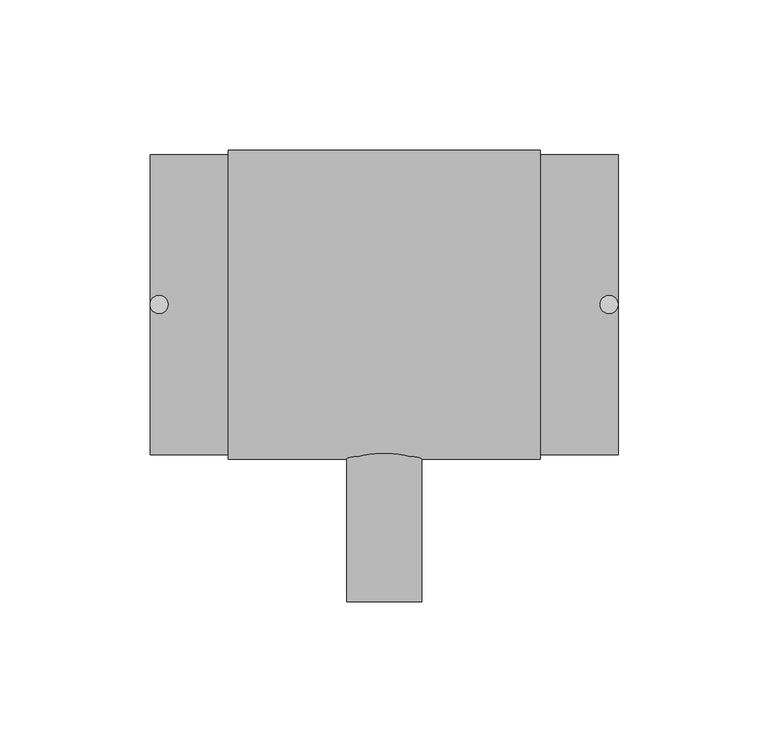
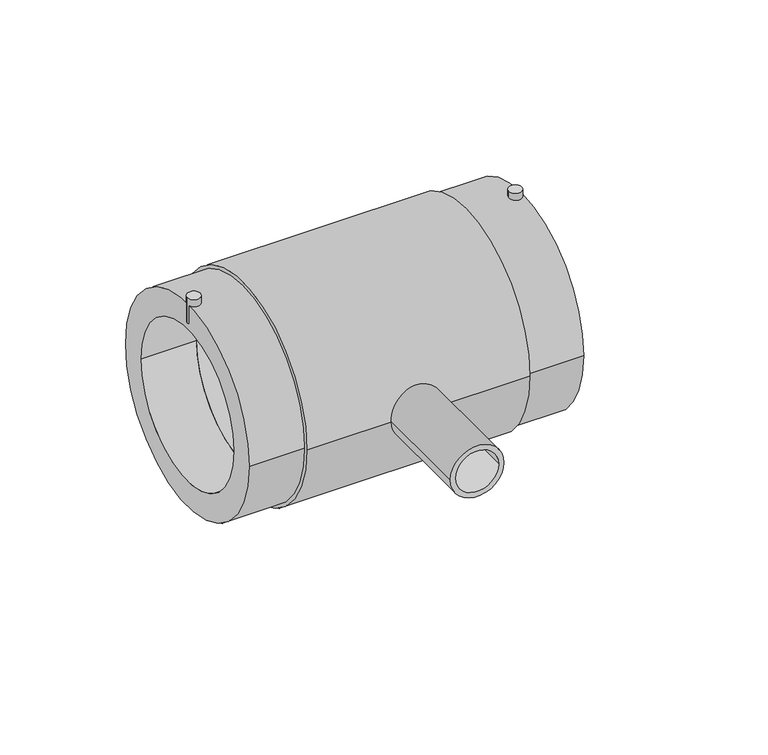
"""IFC4 building model written with IfcOpenShell, lengths in millimetres: pipe fitting geometry, EGB_VASEN_ PPR_Te electrosoldable WXRD300_Te reducida electrosoldable WXRD310 : Te electrosoldable."""

from ifc_helpers import new_model, si_unit, point, frame, frame_2d, origin, origin_2d, place, context, project, spatial, circle_curve, trimmed, segment, composite_curve, outline, extrude, source, transform, mapped, element, save


def pipe_fitting_abe4278b(model_context):
    return source(origin(), model_context, "Body", "SweptSolid", [
        extrude(outline(composite_curve([segment(trimmed(circle_curve(frame_2d((-75.0, 0.0)), 3.0), [point((-78.0, 0.0))], [point((-72.0, 0.0))], False, "CARTESIAN"), True, "CONTINUOUS"), segment(trimmed(circle_curve(frame_2d((-75.0, 0.0)), 3.0), [point((-72.0, 0.0))], [point((-78.0, 0.0))], False, "CARTESIAN"), True, "CONTINUOUS")], self_intersect=False)), frame((0.0, 0.0, 40.5), z_axis=(0.0, 0.0, 1.0), x_axis=(1.0, 0.0, 0.0)), (0.0, 0.0, 1.0), 12.5),
        extrude(outline(composite_curve([segment(trimmed(circle_curve(frame_2d((75.0, 0.0)), 3.0), [point((72.0, 0.0))], [point((78.0, 0.0))], False, "CARTESIAN"), True, "CONTINUOUS"), segment(trimmed(circle_curve(frame_2d((75.0, 0.0)), 3.0), [point((78.0, 0.0))], [point((72.0, 0.0))], False, "CARTESIAN"), True, "CONTINUOUS")], self_intersect=False)), frame((0.0, 0.0, 40.5), z_axis=(0.0, 0.0, 1.0), x_axis=(1.0, 0.0, 0.0)), (0.0, 0.0, 1.0), 12.5),
        extrude(outline(composite_curve([segment(trimmed(circle_curve(origin_2d(), 15.0), [point((0.0, 15.0))], [point((0.0, -15.0))], False, "CARTESIAN"), True, "CONTINUOUS"), segment(trimmed(circle_curve(origin_2d(), 15.0), [point((0.0, -15.0))], [point((0.0, 15.0))], False, "CARTESIAN"), True, "CONTINUOUS")], self_intersect=False)), frame((0.0, -39.6, 0.0), z_axis=(0.0, 1.0, 0.0), x_axis=(0.0, 0.0, 1.0)), (0.0, 0.0, 1.0), 39.6),
        extrude(outline(composite_curve([segment(trimmed(circle_curve(origin_2d(), 12.5), [point((0.0, -12.5))], [point((0.0, 12.5))], False, "CARTESIAN"), True, "CONTINUOUS"), segment(trimmed(circle_curve(origin_2d(), 12.5), [point((0.0, 12.5))], [point((0.0, -12.5))], False, "CARTESIAN"), True, "CONTINUOUS")], self_intersect=False), holes=[composite_curve([segment(trimmed(circle_curve(origin_2d(), 10.0), [point((0.0, -10.0))], [point((0.0, 10.0))], True, "CARTESIAN"), True, "CONTINUOUS"), segment(trimmed(circle_curve(origin_2d(), 10.0), [point((0.0, 10.0))], [point((0.0, -10.0))], True, "CARTESIAN"), True, "CONTINUOUS")], self_intersect=False)]), frame((0.0, -99.0, 0.0), z_axis=(0.0, 1.0, 0.0), x_axis=(0.0, 0.0, 1.0)), (0.0, 0.0, 1.0), 59.4),
        extrude(outline(composite_curve([segment(trimmed(circle_curve(origin_2d(), 51.5), [point((-51.5, 0.0))], [point((51.5, 0.0))], False, "CARTESIAN"), True, "CONTINUOUS"), segment(trimmed(circle_curve(origin_2d(), 51.5), [point((51.5, 0.0))], [point((-51.5, 0.0))], False, "CARTESIAN"), True, "CONTINUOUS")], self_intersect=False), holes=[composite_curve([segment(trimmed(circle_curve(origin_2d(), 37.5), [point((-37.5, 0.0))], [point((37.5, 0.0))], True, "CARTESIAN"), True, "CONTINUOUS"), segment(trimmed(circle_curve(origin_2d(), 37.5), [point((37.5, 0.0))], [point((-37.5, 0.0))], True, "CARTESIAN"), True, "CONTINUOUS")], self_intersect=False)]), frame((-52.0, 0.0, 0.0), z_axis=(1.0, 0.0, 0.0), x_axis=(0.0, 1.0, 0.0)), (0.0, 0.0, 1.0), 104.0),
        extrude(outline(composite_curve([segment(trimmed(circle_curve(origin_2d(), 50.0), [point((-50.0, 0.0))], [point((50.0, 0.0))], False, "CARTESIAN"), True, "CONTINUOUS"), segment(trimmed(circle_curve(origin_2d(), 50.0), [point((50.0, 0.0))], [point((-50.0, 0.0))], False, "CARTESIAN"), True, "CONTINUOUS")], self_intersect=False), holes=[composite_curve([segment(trimmed(circle_curve(origin_2d(), 37.5), [point((-37.5, 0.0))], [point((37.5, 0.0))], True, "CARTESIAN"), True, "CONTINUOUS"), segment(trimmed(circle_curve(origin_2d(), 37.5), [point((37.5, 0.0))], [point((-37.5, 0.0))], True, "CARTESIAN"), True, "CONTINUOUS")], self_intersect=False)]), frame((-78.0, 0.0, 0.0), z_axis=(1.0, 0.0, 0.0), x_axis=(0.0, 1.0, 0.0)), (0.0, 0.0, 1.0), 156.0),
    ])


if __name__ == "__main__":
    model = new_model("IFC4")
    model_context = context("Model", 3, world=origin())
    ifc_project = project(units=[si_unit("LENGTHUNIT", "METRE", prefix="MILLI")], contexts=[model_context])
    site = spatial("IfcSite", under=ifc_project)
    building = spatial("IfcBuilding", under=site)
    placement = place(None, origin())
    pipe_fitting_shape = pipe_fitting_abe4278b(model_context)
    element("IfcPipeFitting", 1, ObjectType="EGB_VASEN_ PPR_Te electrosoldable WXRD300_Te reducida electrosoldable WXRD310 : Te electrosoldable", at=placement, inside=building, context=model_context, shape_type="MappedRepresentation", body=[
        mapped(pipe_fitting_shape, transform((0.0, 0.0, 0.0), x_axis=(1.0, 0.0, 0.0), y_axis=(0.0, 1.0, 0.0), z_axis=(0.0, 0.0, 1.0))),
    ])
    save(model, "model.ifc")
